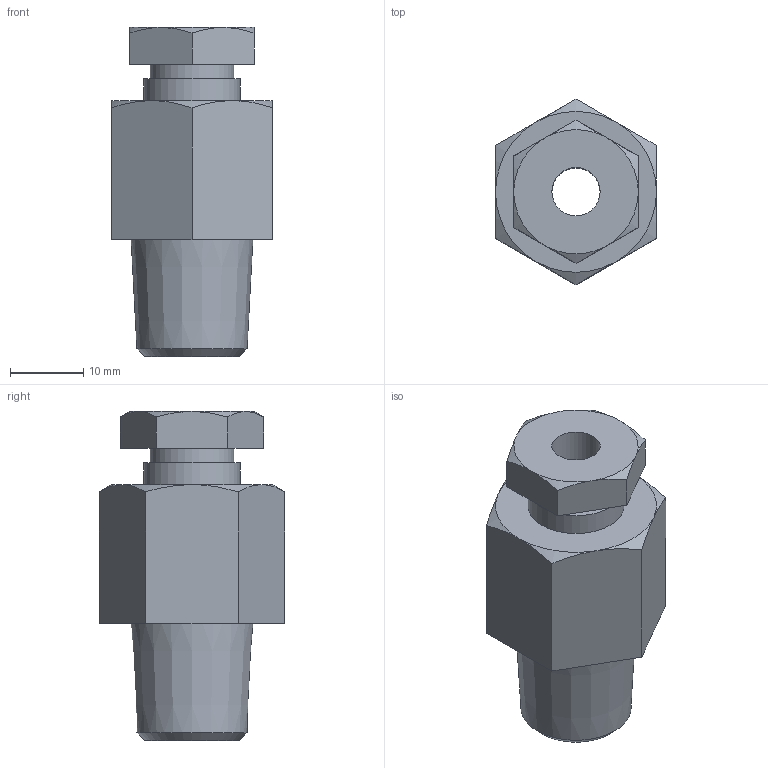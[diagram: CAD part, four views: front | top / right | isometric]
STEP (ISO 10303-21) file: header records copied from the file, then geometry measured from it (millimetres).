
FILE_DESCRIPTION (( 'STEP AP203' ), '1' );
FILE_NAME ('YICF-10(0).STEP', '2025-08-22T04:37:25', ( '' ), ( '' ), 'SwSTEP 2.0', 'SolidWorks 2024', '' );
FILE_SCHEMA (( 'CONFIG_CONTROL_DESIGN' ));
Length unit declared in the file: millimetre
Products named in the file (1): YICF-10(0)
Bounding box: 22 x 25.4 x 45 mm (x, y, z)
Volume: 11385.6 mm3; surface area: 4627.9 mm2
Topology: 1 solids, 1 shells, 35 faces, 89 edges, 60 vertices
Faces by surface type: plane 18, cone 14, cylinder 3
Full cylindrical faces by diameter (mm): 6.6 x1, 11.445 x1, 13.157 x1
Entity records: 1177 total; most frequent: CARTESIAN_POINT 310, ORIENTED_EDGE 162, DIRECTION 150, EDGE_CURVE 81, AXIS2_PLACEMENT_3D 57, VERTEX_POINT 57, EDGE_LOOP 46, FACE_OUTER_BOUND 38
